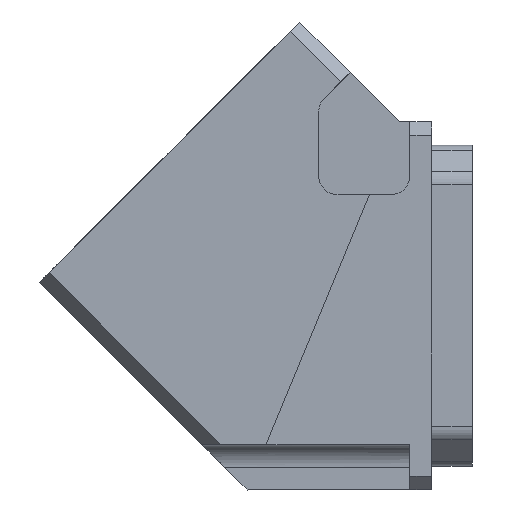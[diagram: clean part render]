
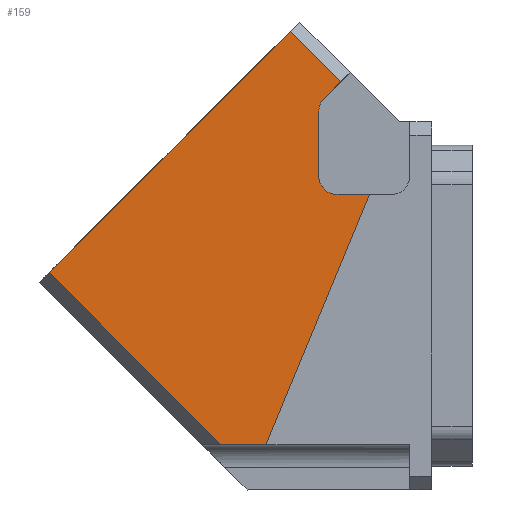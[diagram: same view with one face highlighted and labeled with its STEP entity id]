
A CAD part, left-side view. The second image highlights one B-rep face of the part: STEP entity #159.
In plain terms, the highlighted planar face has unit normal (-1, 0, 0).
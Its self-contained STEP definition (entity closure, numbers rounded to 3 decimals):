
#159=ADVANCED_FACE('',(#318),#1518,.T.);
#318=FACE_OUTER_BOUND('',#512,.F.);
#512=EDGE_LOOP('',(#748,#749,#750,#751,#752,#753,#754,#755,#756,#757));
#748=ORIENTED_EDGE('',*,*,#1836,.T.);
#749=ORIENTED_EDGE('',*,*,#1856,.T.);
#750=ORIENTED_EDGE('',*,*,#1814,.F.);
#751=ORIENTED_EDGE('',*,*,#1813,.T.);
#752=ORIENTED_EDGE('',*,*,#1812,.T.);
#753=ORIENTED_EDGE('',*,*,#1811,.T.);
#754=ORIENTED_EDGE('',*,*,#1810,.T.);
#755=ORIENTED_EDGE('',*,*,#1873,.T.);
#756=ORIENTED_EDGE('',*,*,#1864,.T.);
#757=ORIENTED_EDGE('',*,*,#1817,.F.);
#1518=PLANE('',#3050);
#1612=CIRCLE('',#2965,2.);
#1613=CIRCLE('',#2966,2.);
#1810=EDGE_CURVE('',#2832,#2835,#2189,.T.);
#1811=EDGE_CURVE('',#2831,#2832,#1612,.T.);
#1812=EDGE_CURVE('',#2830,#2831,#2190,.T.);
#1813=EDGE_CURVE('',#2829,#2830,#1613,.T.);
#1814=EDGE_CURVE('',#2829,#2833,#2191,.T.);
#1817=EDGE_CURVE('',#2827,#2826,#2194,.T.);
#1836=EDGE_CURVE('',#2827,#2815,#2205,.T.);
#1856=EDGE_CURVE('',#2815,#2833,#2219,.T.);
#1864=EDGE_CURVE('',#2792,#2826,#2225,.T.);
#1873=EDGE_CURVE('',#2835,#2792,#2232,.T.);
#2189=LINE('',#4651,#2448);
#2190=LINE('',#4653,#2449);
#2191=LINE('',#4655,#2450);
#2194=LINE('',#4658,#2453);
#2205=LINE('',#4761,#2464);
#2219=LINE('',#4803,#2478);
#2225=LINE('',#4811,#2484);
#2232=LINE('',#4820,#2491);
#2448=VECTOR('',#3326,3.577);
#2449=VECTOR('',#3329,7.172);
#2450=VECTOR('',#3332,2.544);
#2453=VECTOR('',#3335,26.713);
#2464=VECTOR('',#3354,37.5);
#2478=VECTOR('',#3376,7.808);
#2484=VECTOR('',#3386,4.95);
#2491=VECTOR('',#3397,29.766);
#2792=VERTEX_POINT('',#4225);
#2815=VERTEX_POINT('',#4248);
#2826=VERTEX_POINT('',#4259);
#2827=VERTEX_POINT('',#4260);
#2829=VERTEX_POINT('',#4262);
#2830=VERTEX_POINT('',#4263);
#2831=VERTEX_POINT('',#4264);
#2832=VERTEX_POINT('',#4265);
#2833=VERTEX_POINT('',#4266);
#2835=VERTEX_POINT('',#4268);
#2965=AXIS2_PLACEMENT_3D('',#4652,#3327,#3328);
#2966=AXIS2_PLACEMENT_3D('',#4654,#3330,#3331);
#3050=AXIS2_PLACEMENT_3D('',#5055,#3697,#3698);
#3326=DIRECTION('',(0.,-1.,0.));
#3327=DIRECTION('',(-1.,0.,0.));
#3328=DIRECTION('',(0.,1.,0.));
#3329=DIRECTION('',(0.,0.,-1.));
#3330=DIRECTION('',(-1.,0.,0.));
#3331=DIRECTION('',(0.,0.707,0.707));
#3332=DIRECTION('',(0.,-0.707,0.707));
#3335=DIRECTION('',(0.,-0.707,-0.707));
#3354=DIRECTION('',(0.,-0.707,0.707));
#3376=DIRECTION('',(0.,-0.707,-0.707));
#3386=DIRECTION('',(0.,1.,0.));
#3397=DIRECTION('',(0.,0.383,-0.924));
#3697=DIRECTION('',(-1.,0.,0.));
#3698=DIRECTION('',(0.,-0.707,0.707));
#4225=CARTESIAN_POINT('',(-21.75,-24.65,67.247));
#4248=CARTESIAN_POINT('',(-21.75,-27.327,112.653));
#4259=CARTESIAN_POINT('',(-21.75,-19.7,67.247));
#4260=CARTESIAN_POINT('',(-21.75,-0.811,86.136));
#4262=CARTESIAN_POINT('',(-21.75,-31.049,105.333));
#4263=CARTESIAN_POINT('',(-21.75,-30.463,103.918));
#4264=CARTESIAN_POINT('',(-21.75,-30.463,96.747));
#4265=CARTESIAN_POINT('',(-21.75,-32.463,94.747));
#4266=CARTESIAN_POINT('',(-21.75,-32.848,107.132));
#4268=CARTESIAN_POINT('',(-21.75,-36.041,94.747));
#4651=CARTESIAN_POINT('',(-21.75,-32.463,94.747));
#4652=CARTESIAN_POINT('',(-21.75,-32.463,96.747));
#4653=CARTESIAN_POINT('',(-21.75,-30.463,103.918));
#4654=CARTESIAN_POINT('',(-21.75,-32.463,103.918));
#4655=CARTESIAN_POINT('',(-21.75,-31.049,105.333));
#4658=CARTESIAN_POINT('',(-21.75,-0.811,86.136));
#4761=CARTESIAN_POINT('',(-21.75,-0.811,86.136));
#4803=CARTESIAN_POINT('',(-21.75,-27.327,112.653));
#4811=CARTESIAN_POINT('',(-21.75,-24.65,67.247));
#4820=CARTESIAN_POINT('',(-21.75,-36.041,94.747));
#5055=CARTESIAN_POINT('',(-21.75,-29.449,54.783));
